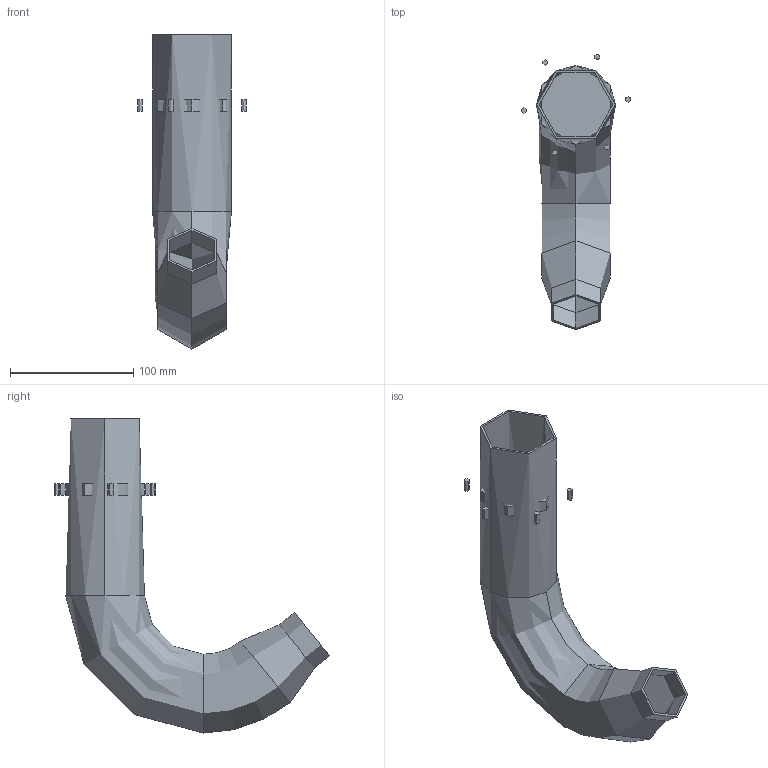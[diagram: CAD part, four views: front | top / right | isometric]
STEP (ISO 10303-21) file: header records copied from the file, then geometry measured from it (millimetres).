
FILE_DESCRIPTION(('STEP AP214'),'1');
FILE_NAME('D:/Data/PrePro/Meshing/Fluent_Meshing/Build-Topology/aftertreatment-part-1-solid-2.stp','2014-05-22T08:29:13',(' '),(' '),'Spatial InterOp 3D',' ',' ');
FILE_SCHEMA(('automotive_design'));
Length unit declared in the file: millimetre
Products named in the file (4): part1; part12; part16; aftertreatment-part-1-solid-2
Assembly tree (3 placements, depth 3):
  aftertreatment-part-1-solid-2
    part1
      part12
      part16
Bounding box: 88.38 x 223.45 x 255.22 mm (x, y, z)
Topology: 8 solids, 26 shells, 68 faces, 90 edges, 56 vertices
Faces by surface type: cylinder 34, plane 22, torus 8, cone 4
Full cylindrical faces by diameter (mm): 11.907 x12
Entity records: 2362 total; most frequent: DIRECTION 350, CARTESIAN_POINT 335, ORIENTED_EDGE 288, AXIS2_PLACEMENT_3D 147, EDGE_CURVE 144, VERTEX_POINT 92, CIRCLE 86, EDGE_LOOP 72
